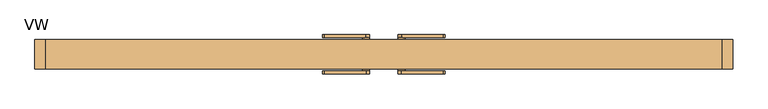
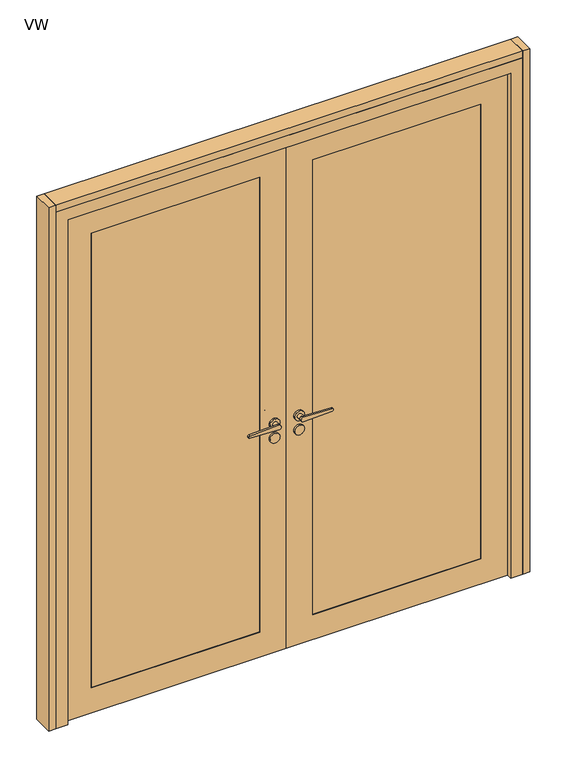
"""IFC4 building model written with IfcOpenShell, lengths in millimetres: door geometry, Mobiliário_Mobiliário de Escritório_Porta Dupla de Giro Vidro Duplo com Persiana - VW_Marelli : VW."""

from ifc_helpers import new_model, si_unit, point, frame, frame_2d, origin, origin_with_axes, place, context, project, spatial, polyline, circle_curve, trimmed, segment, composite_curve, outline, extrude, faceted_brep, source, transform, mapped, element, save


def vw_93026b2b(model_context):
    return source(origin(), model_context, "Body", "SolidModel", [
        extrude(outline(polyline([(-1000.0, -42.5), (-1000.0, 42.5), (-970.0, 42.5), (-970.0, -42.5), (-1000.0, -42.5)])), origin_with_axes(), (0.0, 0.0, 1.0), 2300.0),
        extrude(outline(polyline([(1000.0, -42.5), (970.0, -42.5), (970.0, 42.5), (1000.0, 42.5), (1000.0, -42.5)])), origin_with_axes(), (0.0, 0.0, 1.0), 2300.0),
        faceted_brep([(-970.0, 42.5, 2270.0), (970.0, 42.5, 2270.0), (970.0, 42.5, 0.0), (890.0, 42.5, 0.0), (890.0, 42.5, 2190.0), (-890.0, 42.5, 2190.0), (-890.0, 42.5, 0.0), (-970.0, 42.5, 0.0), (-970.0, -42.5, 0.0), (-970.0, -42.5, 2270.0), (-890.0, 21.5, 0.0), (-920.0, 21.5, 0.0), (-920.0, -42.5, 0.0), (970.0, -42.5, 0.0), (920.0, -42.5, 0.0), (920.0, 21.5, 0.0), (890.0, 21.5, 0.0), (-890.0, 21.5, 2190.0), (890.0, 21.5, 2190.0), (970.0, -42.5, 2270.0), (920.0, 21.5, 2220.0), (-920.0, 21.5, 2220.0), (-920.0, -42.5, 2220.0), (920.0, -42.5, 2220.0)], [[[0, 1, 2, 3, 4, 5, 6, 7]], [[0, 7, 8, 9]], [[7, 6, 10, 11, 12, 8]], [[2, 13, 14, 15, 16, 3]], [[6, 5, 17, 10]], [[16, 18, 4, 3]], [[19, 13, 2, 1]], [[18, 16, 15, 20, 21, 11, 10, 17]], [[21, 22, 12, 11]], [[14, 23, 20, 15]], [[23, 14, 13, 19, 9, 8, 12, 22]], [[4, 18, 17, 5]], [[22, 21, 20, 23]], [[19, 1, 0, 9]]]),
        extrude(outline(polyline([(2219.5, 0.25), (0.5, 0.25), (0.5, 919.5), (2219.5, 919.5), (2219.5, 0.25)]), holes=[polyline([(110.5, 809.5), (110.5, 110.25), (2109.5, 110.25), (2109.5, 809.5), (110.5, 809.5)])]), frame((0.0, -21.0, 0.0), z_axis=(0.0, 1.0, 0.0), x_axis=(0.0, 0.0, 1.0)), (0.0, 0.0, 1.0), 42.0),
        extrude(outline(polyline([(809.5, -18.5), (110.25, -18.5), (110.25, -12.5), (809.5, -12.5), (809.5, -18.5)])), frame((0.0, 0.0, 110.5), z_axis=(0.0, 0.0, 1.0), x_axis=(1.0, 0.0, 0.0)), (0.0, 0.0, 1.0), 1999.0),
        extrude(outline(polyline([(809.5, 18.5), (809.5, 12.5), (110.25, 12.5), (110.25, 18.5), (809.5, 18.5)])), frame((0.0, 0.0, 110.5), z_axis=(0.0, 0.0, 1.0), x_axis=(1.0, 0.0, 0.0)), (0.0, 0.0, 1.0), 1999.0),
        extrude(outline(polyline([(2219.5, -0.25), (2219.5, -919.5), (0.5, -919.5), (0.5, -0.25), (2219.5, -0.25)]), holes=[polyline([(110.5, -809.5), (2109.5, -809.5), (2109.5, -110.25), (110.5, -110.25), (110.5, -809.5)])]), frame((0.0, -21.0, 0.0), z_axis=(0.0, 1.0, 0.0), x_axis=(0.0, 0.0, 1.0)), (0.0, 0.0, 1.0), 42.0),
        extrude(outline(polyline([(-809.5, -18.5), (-809.5, -12.5), (-110.25, -12.5), (-110.25, -18.5), (-809.5, -18.5)])), frame((0.0, 0.0, 110.5), z_axis=(0.0, 0.0, 1.0), x_axis=(1.0, 0.0, 0.0)), (0.0, 0.0, 1.0), 1999.0),
        extrude(outline(polyline([(-809.5, 18.5), (-110.25, 18.5), (-110.25, 12.5), (-809.5, 12.5), (-809.5, 18.5)])), frame((0.0, 0.0, 110.5), z_axis=(0.0, 0.0, 1.0), x_axis=(1.0, 0.0, 0.0)), (0.0, 0.0, 1.0), 1999.0),
        extrude(outline(polyline([(-809.5, 9.1216022), (-110.7, 9.1216022), (-110.7, -6.8783978), (-809.5, -6.8783978), (-809.5, 9.1216022)])), frame((0.0, 0.0, 1190.7), z_axis=(0.0, 0.0, 1.0), x_axis=(1.0, 0.0, 0.0)), (0.0, 0.0, 1.0), 0.8),
        extrude(outline(polyline([(-809.5, 9.1216022), (-110.7, 9.1216022), (-110.7, -6.8783978), (-809.5, -6.8783978), (-809.5, 9.1216022)])), frame((0.0, 0.0, 1160.7), z_axis=(0.0, 0.0, 1.0), x_axis=(1.0, 0.0, 0.0)), (0.0, 0.0, 1.0), 0.8),
        extrude(outline(polyline([(-809.5, 9.1216022), (-110.7, 9.1216022), (-110.7, -6.8783978), (-809.5, -6.8783978), (-809.5, 9.1216022)])), frame((0.0, 0.0, 1130.7), z_axis=(0.0, 0.0, 1.0), x_axis=(1.0, 0.0, 0.0)), (0.0, 0.0, 1.0), 0.8),
        extrude(outline(polyline([(-809.5, 9.1216022), (-110.7, 9.1216022), (-110.7, -6.8783978), (-809.5, -6.8783978), (-809.5, 9.1216022)])), frame((0.0, 0.0, 1100.7), z_axis=(0.0, 0.0, 1.0), x_axis=(1.0, 0.0, 0.0)), (0.0, 0.0, 1.0), 0.8),
        extrude(outline(polyline([(-809.5, 9.1216022), (-110.7, 9.1216022), (-110.7, -6.8783978), (-809.5, -6.8783978), (-809.5, 9.1216022)])), frame((0.0, 0.0, 1070.7), z_axis=(0.0, 0.0, 1.0), x_axis=(1.0, 0.0, 0.0)), (0.0, 0.0, 1.0), 0.8),
        extrude(outline(polyline([(-809.5, 9.1216022), (-110.7, 9.1216022), (-110.7, -6.8783978), (-809.5, -6.8783978), (-809.5, 9.1216022)])), frame((0.0, 0.0, 1040.7), z_axis=(0.0, 0.0, 1.0), x_axis=(1.0, 0.0, 0.0)), (0.0, 0.0, 1.0), 0.8),
        extrude(outline(polyline([(-809.5, 9.1216022), (-110.7, 9.1216022), (-110.7, -6.8783978), (-809.5, -6.8783978), (-809.5, 9.1216022)])), frame((0.0, 0.0, 1010.7), z_axis=(0.0, 0.0, 1.0), x_axis=(1.0, 0.0, 0.0)), (0.0, 0.0, 1.0), 0.8),
        extrude(outline(polyline([(-809.5, 9.1216022), (-110.7, 9.1216022), (-110.7, -6.8783978), (-809.5, -6.8783978), (-809.5, 9.1216022)])), frame((0.0, 0.0, 980.7), z_axis=(0.0, 0.0, 1.0), x_axis=(1.0, 0.0, 0.0)), (0.0, 0.0, 1.0), 0.8),
        extrude(outline(polyline([(-809.5, 9.1216022), (-110.7, 9.1216022), (-110.7, -6.8783978), (-809.5, -6.8783978), (-809.5, 9.1216022)])), frame((0.0, 0.0, 950.7), z_axis=(0.0, 0.0, 1.0), x_axis=(1.0, 0.0, 0.0)), (0.0, 0.0, 1.0), 0.8),
        extrude(outline(polyline([(-809.5, 9.1216022), (-110.7, 9.1216022), (-110.7, -6.8783978), (-809.5, -6.8783978), (-809.5, 9.1216022)])), frame((0.0, 0.0, 920.7), z_axis=(0.0, 0.0, 1.0), x_axis=(1.0, 0.0, 0.0)), (0.0, 0.0, 1.0), 0.8),
        extrude(outline(polyline([(-809.5, 9.1216022), (-110.7, 9.1216022), (-110.7, -6.8783978), (-809.5, -6.8783978), (-809.5, 9.1216022)])), frame((0.0, 0.0, 620.7), z_axis=(0.0, 0.0, 1.0), x_axis=(1.0, 0.0, 0.0)), (0.0, 0.0, 1.0), 0.8),
        extrude(outline(polyline([(-809.5, 9.1216022), (-110.7, 9.1216022), (-110.7, -6.8783978), (-809.5, -6.8783978), (-809.5, 9.1216022)])), frame((0.0, 0.0, 650.7), z_axis=(0.0, 0.0, 1.0), x_axis=(1.0, 0.0, 0.0)), (0.0, 0.0, 1.0), 0.8),
        extrude(outline(polyline([(-809.5, 9.1216022), (-110.7, 9.1216022), (-110.7, -6.8783978), (-809.5, -6.8783978), (-809.5, 9.1216022)])), frame((0.0, 0.0, 680.7), z_axis=(0.0, 0.0, 1.0), x_axis=(1.0, 0.0, 0.0)), (0.0, 0.0, 1.0), 0.8),
        extrude(outline(polyline([(-809.5, 9.1216022), (-110.7, 9.1216022), (-110.7, -6.8783978), (-809.5, -6.8783978), (-809.5, 9.1216022)])), frame((0.0, 0.0, 710.7), z_axis=(0.0, 0.0, 1.0), x_axis=(1.0, 0.0, 0.0)), (0.0, 0.0, 1.0), 0.8),
        extrude(outline(polyline([(-809.5, 9.1216022), (-110.7, 9.1216022), (-110.7, -6.8783978), (-809.5, -6.8783978), (-809.5, 9.1216022)])), frame((0.0, 0.0, 740.7), z_axis=(0.0, 0.0, 1.0), x_axis=(1.0, 0.0, 0.0)), (0.0, 0.0, 1.0), 0.8),
        extrude(outline(polyline([(-809.5, 9.1216022), (-110.7, 9.1216022), (-110.7, -6.8783978), (-809.5, -6.8783978), (-809.5, 9.1216022)])), frame((0.0, 0.0, 770.7), z_axis=(0.0, 0.0, 1.0), x_axis=(1.0, 0.0, 0.0)), (0.0, 0.0, 1.0), 0.8),
        extrude(outline(polyline([(-809.5, 9.1216022), (-110.7, 9.1216022), (-110.7, -6.8783978), (-809.5, -6.8783978), (-809.5, 9.1216022)])), frame((0.0, 0.0, 800.7), z_axis=(0.0, 0.0, 1.0), x_axis=(1.0, 0.0, 0.0)), (0.0, 0.0, 1.0), 0.8),
        extrude(outline(polyline([(-809.5, 9.1216022), (-110.7, 9.1216022), (-110.7, -6.8783978), (-809.5, -6.8783978), (-809.5, 9.1216022)])), frame((0.0, 0.0, 830.7), z_axis=(0.0, 0.0, 1.0), x_axis=(1.0, 0.0, 0.0)), (0.0, 0.0, 1.0), 0.8),
        extrude(outline(polyline([(-809.5, 9.1216022), (-110.7, 9.1216022), (-110.7, -6.8783978), (-809.5, -6.8783978), (-809.5, 9.1216022)])), frame((0.0, 0.0, 860.7), z_axis=(0.0, 0.0, 1.0), x_axis=(1.0, 0.0, 0.0)), (0.0, 0.0, 1.0), 0.8),
        extrude(outline(polyline([(-809.5, 9.1216022), (-110.7, 9.1216022), (-110.7, -6.8783978), (-809.5, -6.8783978), (-809.5, 9.1216022)])), frame((0.0, 0.0, 890.7), z_axis=(0.0, 0.0, 1.0), x_axis=(1.0, 0.0, 0.0)), (0.0, 0.0, 1.0), 0.8),
        extrude(outline(polyline([(-809.5, 9.1216022), (-110.7, 9.1216022), (-110.7, -6.8783978), (-809.5, -6.8783978), (-809.5, 9.1216022)])), frame((0.0, 0.0, 320.7), z_axis=(0.0, 0.0, 1.0), x_axis=(1.0, 0.0, 0.0)), (0.0, 0.0, 1.0), 0.8),
        extrude(outline(polyline([(-809.5, 9.1216022), (-110.7, 9.1216022), (-110.7, -6.8783978), (-809.5, -6.8783978), (-809.5, 9.1216022)])), frame((0.0, 0.0, 590.7), z_axis=(0.0, 0.0, 1.0), x_axis=(1.0, 0.0, 0.0)), (0.0, 0.0, 1.0), 0.8),
        extrude(outline(polyline([(-809.5, 9.1216022), (-110.7, 9.1216022), (-110.7, -6.8783978), (-809.5, -6.8783978), (-809.5, 9.1216022)])), frame((0.0, 0.0, 560.7), z_axis=(0.0, 0.0, 1.0), x_axis=(1.0, 0.0, 0.0)), (0.0, 0.0, 1.0), 0.8),
        extrude(outline(polyline([(-809.5, 9.1216022), (-110.7, 9.1216022), (-110.7, -6.8783978), (-809.5, -6.8783978), (-809.5, 9.1216022)])), frame((0.0, 0.0, 530.7), z_axis=(0.0, 0.0, 1.0), x_axis=(1.0, 0.0, 0.0)), (0.0, 0.0, 1.0), 0.8),
        extrude(outline(polyline([(-809.5, 9.1216022), (-110.7, 9.1216022), (-110.7, -6.8783978), (-809.5, -6.8783978), (-809.5, 9.1216022)])), frame((0.0, 0.0, 500.7), z_axis=(0.0, 0.0, 1.0), x_axis=(1.0, 0.0, 0.0)), (0.0, 0.0, 1.0), 0.8),
        extrude(outline(polyline([(-809.5, 9.1216022), (-110.7, 9.1216022), (-110.7, -6.8783978), (-809.5, -6.8783978), (-809.5, 9.1216022)])), frame((0.0, 0.0, 470.7), z_axis=(0.0, 0.0, 1.0), x_axis=(1.0, 0.0, 0.0)), (0.0, 0.0, 1.0), 0.8),
        extrude(outline(polyline([(-809.5, 9.1216022), (-110.7, 9.1216022), (-110.7, -6.8783978), (-809.5, -6.8783978), (-809.5, 9.1216022)])), frame((0.0, 0.0, 440.7), z_axis=(0.0, 0.0, 1.0), x_axis=(1.0, 0.0, 0.0)), (0.0, 0.0, 1.0), 0.8),
        extrude(outline(polyline([(-809.5, 9.1216022), (-110.7, 9.1216022), (-110.7, -6.8783978), (-809.5, -6.8783978), (-809.5, 9.1216022)])), frame((0.0, 0.0, 410.7), z_axis=(0.0, 0.0, 1.0), x_axis=(1.0, 0.0, 0.0)), (0.0, 0.0, 1.0), 0.8),
        extrude(outline(polyline([(-809.5, 9.1216022), (-110.7, 9.1216022), (-110.7, -6.8783978), (-809.5, -6.8783978), (-809.5, 9.1216022)])), frame((0.0, 0.0, 380.7), z_axis=(0.0, 0.0, 1.0), x_axis=(1.0, 0.0, 0.0)), (0.0, 0.0, 1.0), 0.8),
        extrude(outline(polyline([(-809.5, 9.1216022), (-110.7, 9.1216022), (-110.7, -6.8783978), (-809.5, -6.8783978), (-809.5, 9.1216022)])), frame((0.0, 0.0, 350.7), z_axis=(0.0, 0.0, 1.0), x_axis=(1.0, 0.0, 0.0)), (0.0, 0.0, 1.0), 0.8),
        extrude(outline(polyline([(-809.5, 9.1216022), (-110.7, 9.1216022), (-110.7, -6.8783978), (-809.5, -6.8783978), (-809.5, 9.1216022)])), frame((0.0, 0.0, 140.7), z_axis=(0.0, 0.0, 1.0), x_axis=(1.0, 0.0, 0.0)), (0.0, 0.0, 1.0), 0.8),
        extrude(outline(polyline([(-809.5, 9.1216022), (-110.7, 9.1216022), (-110.7, -6.8783978), (-809.5, -6.8783978), (-809.5, 9.1216022)])), frame((0.0, 0.0, 170.7), z_axis=(0.0, 0.0, 1.0), x_axis=(1.0, 0.0, 0.0)), (0.0, 0.0, 1.0), 0.8),
        extrude(outline(polyline([(-809.5, 9.1216022), (-110.7, 9.1216022), (-110.7, -6.8783978), (-809.5, -6.8783978), (-809.5, 9.1216022)])), frame((0.0, 0.0, 200.7), z_axis=(0.0, 0.0, 1.0), x_axis=(1.0, 0.0, 0.0)), (0.0, 0.0, 1.0), 0.8),
        extrude(outline(polyline([(-809.5, 9.1216022), (-110.7, 9.1216022), (-110.7, -6.8783978), (-809.5, -6.8783978), (-809.5, 9.1216022)])), frame((0.0, 0.0, 230.7), z_axis=(0.0, 0.0, 1.0), x_axis=(1.0, 0.0, 0.0)), (0.0, 0.0, 1.0), 0.8),
        extrude(outline(polyline([(-809.5, 9.1216022), (-110.7, 9.1216022), (-110.7, -6.8783978), (-809.5, -6.8783978), (-809.5, 9.1216022)])), frame((0.0, 0.0, 260.7), z_axis=(0.0, 0.0, 1.0), x_axis=(1.0, 0.0, 0.0)), (0.0, 0.0, 1.0), 0.8),
        extrude(outline(polyline([(-809.5, 9.1216022), (-110.7, 9.1216022), (-110.7, -6.8783978), (-809.5, -6.8783978), (-809.5, 9.1216022)])), frame((0.0, 0.0, 290.7), z_axis=(0.0, 0.0, 1.0), x_axis=(1.0, 0.0, 0.0)), (0.0, 0.0, 1.0), 0.8),
        extrude(outline(polyline([(-809.5, 9.1216022), (-110.7, 9.1216022), (-110.7, -6.8783978), (-809.5, -6.8783978), (-809.5, 9.1216022)])), frame((0.0, 0.0, 2060.7), z_axis=(0.0, 0.0, 1.0), x_axis=(1.0, 0.0, 0.0)), (0.0, 0.0, 1.0), 0.8),
        extrude(outline(polyline([(-809.5, 9.1216022), (-110.7, 9.1216022), (-110.7, -6.8783978), (-809.5, -6.8783978), (-809.5, 9.1216022)])), frame((0.0, 0.0, 2030.7), z_axis=(0.0, 0.0, 1.0), x_axis=(1.0, 0.0, 0.0)), (0.0, 0.0, 1.0), 0.8),
        extrude(outline(polyline([(-809.5, 9.1216022), (-110.7, 9.1216022), (-110.7, -6.8783978), (-809.5, -6.8783978), (-809.5, 9.1216022)])), frame((0.0, 0.0, 2000.7), z_axis=(0.0, 0.0, 1.0), x_axis=(1.0, 0.0, 0.0)), (0.0, 0.0, 1.0), 0.8),
        extrude(outline(polyline([(-809.5, 9.1216022), (-110.7, 9.1216022), (-110.7, -6.8783978), (-809.5, -6.8783978), (-809.5, 9.1216022)])), frame((0.0, 0.0, 1970.7), z_axis=(0.0, 0.0, 1.0), x_axis=(1.0, 0.0, 0.0)), (0.0, 0.0, 1.0), 0.8),
        extrude(outline(polyline([(-809.5, 9.1216022), (-110.7, 9.1216022), (-110.7, -6.8783978), (-809.5, -6.8783978), (-809.5, 9.1216022)])), frame((0.0, 0.0, 1940.7), z_axis=(0.0, 0.0, 1.0), x_axis=(1.0, 0.0, 0.0)), (0.0, 0.0, 1.0), 0.8),
        extrude(outline(polyline([(-809.5, 9.1216022), (-110.7, 9.1216022), (-110.7, -6.8783978), (-809.5, -6.8783978), (-809.5, 9.1216022)])), frame((0.0, 0.0, 1910.7), z_axis=(0.0, 0.0, 1.0), x_axis=(1.0, 0.0, 0.0)), (0.0, 0.0, 1.0), 0.8),
        extrude(outline(polyline([(-809.5, 9.1216022), (-110.7, 9.1216022), (-110.7, -6.8783978), (-809.5, -6.8783978), (-809.5, 9.1216022)])), frame((0.0, 0.0, 1880.7), z_axis=(0.0, 0.0, 1.0), x_axis=(1.0, 0.0, 0.0)), (0.0, 0.0, 1.0), 0.8),
        extrude(outline(polyline([(-809.5, 9.1216022), (-110.7, 9.1216022), (-110.7, -6.8783978), (-809.5, -6.8783978), (-809.5, 9.1216022)])), frame((0.0, 0.0, 1850.7), z_axis=(0.0, 0.0, 1.0), x_axis=(1.0, 0.0, 0.0)), (0.0, 0.0, 1.0), 0.8),
        extrude(outline(polyline([(-809.5, 9.1216022), (-110.7, 9.1216022), (-110.7, -6.8783978), (-809.5, -6.8783978), (-809.5, 9.1216022)])), frame((0.0, 0.0, 1820.7), z_axis=(0.0, 0.0, 1.0), x_axis=(1.0, 0.0, 0.0)), (0.0, 0.0, 1.0), 0.8),
        extrude(outline(polyline([(-809.5, 9.1216022), (-110.7, 9.1216022), (-110.7, -6.8783978), (-809.5, -6.8783978), (-809.5, 9.1216022)])), frame((0.0, 0.0, 1790.7), z_axis=(0.0, 0.0, 1.0), x_axis=(1.0, 0.0, 0.0)), (0.0, 0.0, 1.0), 0.8),
        extrude(outline(polyline([(-809.5, 9.1216022), (-110.7, 9.1216022), (-110.7, -6.8783978), (-809.5, -6.8783978), (-809.5, 9.1216022)])), frame((0.0, 0.0, 1760.7), z_axis=(0.0, 0.0, 1.0), x_axis=(1.0, 0.0, 0.0)), (0.0, 0.0, 1.0), 0.8),
        extrude(outline(polyline([(-809.5, 9.1216022), (-110.7, 9.1216022), (-110.7, -6.8783978), (-809.5, -6.8783978), (-809.5, 9.1216022)])), frame((0.0, 0.0, 1730.7), z_axis=(0.0, 0.0, 1.0), x_axis=(1.0, 0.0, 0.0)), (0.0, 0.0, 1.0), 0.8),
        extrude(outline(polyline([(-809.5, 9.1216022), (-110.7, 9.1216022), (-110.7, -6.8783978), (-809.5, -6.8783978), (-809.5, 9.1216022)])), frame((0.0, 0.0, 1700.7), z_axis=(0.0, 0.0, 1.0), x_axis=(1.0, 0.0, 0.0)), (0.0, 0.0, 1.0), 0.8),
        extrude(outline(polyline([(-809.5, 9.1216022), (-110.7, 9.1216022), (-110.7, -6.8783978), (-809.5, -6.8783978), (-809.5, 9.1216022)])), frame((0.0, 0.0, 1670.7), z_axis=(0.0, 0.0, 1.0), x_axis=(1.0, 0.0, 0.0)), (0.0, 0.0, 1.0), 0.8),
        extrude(outline(polyline([(-809.5, 9.1216022), (-110.7, 9.1216022), (-110.7, -6.8783978), (-809.5, -6.8783978), (-809.5, 9.1216022)])), frame((0.0, 0.0, 1640.7), z_axis=(0.0, 0.0, 1.0), x_axis=(1.0, 0.0, 0.0)), (0.0, 0.0, 1.0), 0.8),
        extrude(outline(polyline([(-809.5, 9.1216022), (-110.7, 9.1216022), (-110.7, -6.8783978), (-809.5, -6.8783978), (-809.5, 9.1216022)])), frame((0.0, 0.0, 1610.7), z_axis=(0.0, 0.0, 1.0), x_axis=(1.0, 0.0, 0.0)), (0.0, 0.0, 1.0), 0.8),
        extrude(outline(polyline([(-809.5, 9.1216022), (-110.7, 9.1216022), (-110.7, -6.8783978), (-809.5, -6.8783978), (-809.5, 9.1216022)])), frame((0.0, 0.0, 1580.7), z_axis=(0.0, 0.0, 1.0), x_axis=(1.0, 0.0, 0.0)), (0.0, 0.0, 1.0), 0.8),
        extrude(outline(polyline([(-809.5, 9.1216022), (-110.7, 9.1216022), (-110.7, -6.8783978), (-809.5, -6.8783978), (-809.5, 9.1216022)])), frame((0.0, 0.0, 1550.7), z_axis=(0.0, 0.0, 1.0), x_axis=(1.0, 0.0, 0.0)), (0.0, 0.0, 1.0), 0.8),
        extrude(outline(polyline([(-809.5, 9.1216022), (-110.7, 9.1216022), (-110.7, -6.8783978), (-809.5, -6.8783978), (-809.5, 9.1216022)])), frame((0.0, 0.0, 1520.7), z_axis=(0.0, 0.0, 1.0), x_axis=(1.0, 0.0, 0.0)), (0.0, 0.0, 1.0), 0.8),
        extrude(outline(polyline([(-809.5, 9.1216022), (-110.7, 9.1216022), (-110.7, -6.8783978), (-809.5, -6.8783978), (-809.5, 9.1216022)])), frame((0.0, 0.0, 1490.7), z_axis=(0.0, 0.0, 1.0), x_axis=(1.0, 0.0, 0.0)), (0.0, 0.0, 1.0), 0.8),
        extrude(outline(polyline([(-809.5, 9.1216022), (-110.7, 9.1216022), (-110.7, -6.8783978), (-809.5, -6.8783978), (-809.5, 9.1216022)])), frame((0.0, 0.0, 1460.7), z_axis=(0.0, 0.0, 1.0), x_axis=(1.0, 0.0, 0.0)), (0.0, 0.0, 1.0), 0.8),
        extrude(outline(polyline([(-809.5, 9.1216022), (-110.7, 9.1216022), (-110.7, -6.8783978), (-809.5, -6.8783978), (-809.5, 9.1216022)])), frame((0.0, 0.0, 1430.7), z_axis=(0.0, 0.0, 1.0), x_axis=(1.0, 0.0, 0.0)), (0.0, 0.0, 1.0), 0.8),
        extrude(outline(polyline([(-809.5, 9.1216022), (-110.7, 9.1216022), (-110.7, -6.8783978), (-809.5, -6.8783978), (-809.5, 9.1216022)])), frame((0.0, 0.0, 1400.7), z_axis=(0.0, 0.0, 1.0), x_axis=(1.0, 0.0, 0.0)), (0.0, 0.0, 1.0), 0.8),
        extrude(outline(polyline([(-809.5, 9.1216022), (-110.7, 9.1216022), (-110.7, -6.8783978), (-809.5, -6.8783978), (-809.5, 9.1216022)])), frame((0.0, 0.0, 1370.7), z_axis=(0.0, 0.0, 1.0), x_axis=(1.0, 0.0, 0.0)), (0.0, 0.0, 1.0), 0.8),
        extrude(outline(polyline([(-809.5, 9.1216022), (-110.7, 9.1216022), (-110.7, -6.8783978), (-809.5, -6.8783978), (-809.5, 9.1216022)])), frame((0.0, 0.0, 1340.7), z_axis=(0.0, 0.0, 1.0), x_axis=(1.0, 0.0, 0.0)), (0.0, 0.0, 1.0), 0.8),
        extrude(outline(polyline([(-809.5, 9.1216022), (-110.7, 9.1216022), (-110.7, -6.8783978), (-809.5, -6.8783978), (-809.5, 9.1216022)])), frame((0.0, 0.0, 1310.7), z_axis=(0.0, 0.0, 1.0), x_axis=(1.0, 0.0, 0.0)), (0.0, 0.0, 1.0), 0.8),
        extrude(outline(polyline([(-809.5, 9.1216022), (-110.7, 9.1216022), (-110.7, -6.8783978), (-809.5, -6.8783978), (-809.5, 9.1216022)])), frame((0.0, 0.0, 1280.7), z_axis=(0.0, 0.0, 1.0), x_axis=(1.0, 0.0, 0.0)), (0.0, 0.0, 1.0), 0.8),
        extrude(outline(polyline([(-809.5, 9.1216022), (-110.7, 9.1216022), (-110.7, -6.8783978), (-809.5, -6.8783978), (-809.5, 9.1216022)])), frame((0.0, 0.0, 1250.7), z_axis=(0.0, 0.0, 1.0), x_axis=(1.0, 0.0, 0.0)), (0.0, 0.0, 1.0), 0.8),
        extrude(outline(polyline([(-809.5, 9.1216022), (-110.7, 9.1216022), (-110.7, -6.8783978), (-809.5, -6.8783978), (-809.5, 9.1216022)])), frame((0.0, 0.0, 1220.7), z_axis=(0.0, 0.0, 1.0), x_axis=(1.0, 0.0, 0.0)), (0.0, 0.0, 1.0), 0.8),
        extrude(outline(polyline([(809.5, -6.8783978), (110.7, -6.8783978), (110.7, 9.1216022), (809.5, 9.1216022), (809.5, -6.8783978)])), frame((0.0, 0.0, 1190.7), z_axis=(0.0, 0.0, 1.0), x_axis=(1.0, 0.0, 0.0)), (0.0, 0.0, 1.0), 0.8),
        extrude(outline(polyline([(809.5, -6.8783978), (110.7, -6.8783978), (110.7, 9.1216022), (809.5, 9.1216022), (809.5, -6.8783978)])), frame((0.0, 0.0, 1160.7), z_axis=(0.0, 0.0, 1.0), x_axis=(1.0, 0.0, 0.0)), (0.0, 0.0, 1.0), 0.8),
        extrude(outline(polyline([(809.5, -6.8783978), (110.7, -6.8783978), (110.7, 9.1216022), (809.5, 9.1216022), (809.5, -6.8783978)])), frame((0.0, 0.0, 1130.7), z_axis=(0.0, 0.0, 1.0), x_axis=(1.0, 0.0, 0.0)), (0.0, 0.0, 1.0), 0.8),
        extrude(outline(polyline([(809.5, -6.8783978), (110.7, -6.8783978), (110.7, 9.1216022), (809.5, 9.1216022), (809.5, -6.8783978)])), frame((0.0, 0.0, 1100.7), z_axis=(0.0, 0.0, 1.0), x_axis=(1.0, 0.0, 0.0)), (0.0, 0.0, 1.0), 0.8),
        extrude(outline(polyline([(809.5, -6.8783978), (110.7, -6.8783978), (110.7, 9.1216022), (809.5, 9.1216022), (809.5, -6.8783978)])), frame((0.0, 0.0, 1070.7), z_axis=(0.0, 0.0, 1.0), x_axis=(1.0, 0.0, 0.0)), (0.0, 0.0, 1.0), 0.8),
        extrude(outline(polyline([(809.5, -6.8783978), (110.7, -6.8783978), (110.7, 9.1216022), (809.5, 9.1216022), (809.5, -6.8783978)])), frame((0.0, 0.0, 1040.7), z_axis=(0.0, 0.0, 1.0), x_axis=(1.0, 0.0, 0.0)), (0.0, 0.0, 1.0), 0.8),
        extrude(outline(polyline([(809.5, -6.8783978), (110.7, -6.8783978), (110.7, 9.1216022), (809.5, 9.1216022), (809.5, -6.8783978)])), frame((0.0, 0.0, 1010.7), z_axis=(0.0, 0.0, 1.0), x_axis=(1.0, 0.0, 0.0)), (0.0, 0.0, 1.0), 0.8),
        extrude(outline(polyline([(809.5, -6.8783978), (110.7, -6.8783978), (110.7, 9.1216022), (809.5, 9.1216022), (809.5, -6.8783978)])), frame((0.0, 0.0, 980.7), z_axis=(0.0, 0.0, 1.0), x_axis=(1.0, 0.0, 0.0)), (0.0, 0.0, 1.0), 0.8),
        extrude(outline(polyline([(809.5, -6.8783978), (110.7, -6.8783978), (110.7, 9.1216022), (809.5, 9.1216022), (809.5, -6.8783978)])), frame((0.0, 0.0, 950.7), z_axis=(0.0, 0.0, 1.0), x_axis=(1.0, 0.0, 0.0)), (0.0, 0.0, 1.0), 0.8),
        extrude(outline(polyline([(809.5, -6.8783978), (110.7, -6.8783978), (110.7, 9.1216022), (809.5, 9.1216022), (809.5, -6.8783978)])), frame((0.0, 0.0, 920.7), z_axis=(0.0, 0.0, 1.0), x_axis=(1.0, 0.0, 0.0)), (0.0, 0.0, 1.0), 0.8),
        extrude(outline(polyline([(809.5, -6.8783978), (110.7, -6.8783978), (110.7, 9.1216022), (809.5, 9.1216022), (809.5, -6.8783978)])), frame((0.0, 0.0, 140.7), z_axis=(0.0, 0.0, 1.0), x_axis=(1.0, 0.0, 0.0)), (0.0, 0.0, 1.0), 0.8),
        extrude(outline(polyline([(809.5, -6.8783978), (110.7, -6.8783978), (110.7, 9.1216022), (809.5, 9.1216022), (809.5, -6.8783978)])), frame((0.0, 0.0, 170.7), z_axis=(0.0, 0.0, 1.0), x_axis=(1.0, 0.0, 0.0)), (0.0, 0.0, 1.0), 0.8),
        extrude(outline(polyline([(809.5, -6.8783978), (110.7, -6.8783978), (110.7, 9.1216022), (809.5, 9.1216022), (809.5, -6.8783978)])), frame((0.0, 0.0, 200.7), z_axis=(0.0, 0.0, 1.0), x_axis=(1.0, 0.0, 0.0)), (0.0, 0.0, 1.0), 0.8),
        extrude(outline(polyline([(809.5, -6.8783978), (110.7, -6.8783978), (110.7, 9.1216022), (809.5, 9.1216022), (809.5, -6.8783978)])), frame((0.0, 0.0, 230.7), z_axis=(0.0, 0.0, 1.0), x_axis=(1.0, 0.0, 0.0)), (0.0, 0.0, 1.0), 0.8),
        extrude(outline(polyline([(809.5, -6.8783978), (110.7, -6.8783978), (110.7, 9.1216022), (809.5, 9.1216022), (809.5, -6.8783978)])), frame((0.0, 0.0, 260.7), z_axis=(0.0, 0.0, 1.0), x_axis=(1.0, 0.0, 0.0)), (0.0, 0.0, 1.0), 0.8),
        extrude(outline(polyline([(809.5, -6.8783978), (110.7, -6.8783978), (110.7, 9.1216022), (809.5, 9.1216022), (809.5, -6.8783978)])), frame((0.0, 0.0, 290.7), z_axis=(0.0, 0.0, 1.0), x_axis=(1.0, 0.0, 0.0)), (0.0, 0.0, 1.0), 0.8),
        extrude(outline(polyline([(809.5, -6.8783978), (110.7, -6.8783978), (110.7, 9.1216022), (809.5, 9.1216022), (809.5, -6.8783978)])), frame((0.0, 0.0, 320.7), z_axis=(0.0, 0.0, 1.0), x_axis=(1.0, 0.0, 0.0)), (0.0, 0.0, 1.0), 0.8),
        extrude(outline(polyline([(809.5, -6.8783978), (110.7, -6.8783978), (110.7, 9.1216022), (809.5, 9.1216022), (809.5, -6.8783978)])), frame((0.0, 0.0, 350.7), z_axis=(0.0, 0.0, 1.0), x_axis=(1.0, 0.0, 0.0)), (0.0, 0.0, 1.0), 0.8),
        extrude(outline(polyline([(809.5, -6.8783978), (110.7, -6.8783978), (110.7, 9.1216022), (809.5, 9.1216022), (809.5, -6.8783978)])), frame((0.0, 0.0, 380.7), z_axis=(0.0, 0.0, 1.0), x_axis=(1.0, 0.0, 0.0)), (0.0, 0.0, 1.0), 0.8),
        extrude(outline(polyline([(809.5, -6.8783978), (110.7, -6.8783978), (110.7, 9.1216022), (809.5, 9.1216022), (809.5, -6.8783978)])), frame((0.0, 0.0, 410.7), z_axis=(0.0, 0.0, 1.0), x_axis=(1.0, 0.0, 0.0)), (0.0, 0.0, 1.0), 0.8),
        extrude(outline(polyline([(809.5, -6.8783978), (110.7, -6.8783978), (110.7, 9.1216022), (809.5, 9.1216022), (809.5, -6.8783978)])), frame((0.0, 0.0, 440.7), z_axis=(0.0, 0.0, 1.0), x_axis=(1.0, 0.0, 0.0)), (0.0, 0.0, 1.0), 0.8),
        extrude(outline(polyline([(809.5, -6.8783978), (110.7, -6.8783978), (110.7, 9.1216022), (809.5, 9.1216022), (809.5, -6.8783978)])), frame((0.0, 0.0, 470.7), z_axis=(0.0, 0.0, 1.0), x_axis=(1.0, 0.0, 0.0)), (0.0, 0.0, 1.0), 0.8),
        extrude(outline(polyline([(809.5, -6.8783978), (110.7, -6.8783978), (110.7, 9.1216022), (809.5, 9.1216022), (809.5, -6.8783978)])), frame((0.0, 0.0, 500.7), z_axis=(0.0, 0.0, 1.0), x_axis=(1.0, 0.0, 0.0)), (0.0, 0.0, 1.0), 0.8),
        extrude(outline(polyline([(809.5, -6.8783978), (110.7, -6.8783978), (110.7, 9.1216022), (809.5, 9.1216022), (809.5, -6.8783978)])), frame((0.0, 0.0, 530.7), z_axis=(0.0, 0.0, 1.0), x_axis=(1.0, 0.0, 0.0)), (0.0, 0.0, 1.0), 0.8),
        extrude(outline(polyline([(809.5, -6.8783978), (110.7, -6.8783978), (110.7, 9.1216022), (809.5, 9.1216022), (809.5, -6.8783978)])), frame((0.0, 0.0, 560.7), z_axis=(0.0, 0.0, 1.0), x_axis=(1.0, 0.0, 0.0)), (0.0, 0.0, 1.0), 0.8),
        extrude(outline(polyline([(809.5, -6.8783978), (110.7, -6.8783978), (110.7, 9.1216022), (809.5, 9.1216022), (809.5, -6.8783978)])), frame((0.0, 0.0, 590.7), z_axis=(0.0, 0.0, 1.0), x_axis=(1.0, 0.0, 0.0)), (0.0, 0.0, 1.0), 0.8),
        extrude(outline(polyline([(809.5, -6.8783978), (110.7, -6.8783978), (110.7, 9.1216022), (809.5, 9.1216022), (809.5, -6.8783978)])), frame((0.0, 0.0, 620.7), z_axis=(0.0, 0.0, 1.0), x_axis=(1.0, 0.0, 0.0)), (0.0, 0.0, 1.0), 0.8),
        extrude(outline(polyline([(809.5, -6.8783978), (110.7, -6.8783978), (110.7, 9.1216022), (809.5, 9.1216022), (809.5, -6.8783978)])), frame((0.0, 0.0, 650.7), z_axis=(0.0, 0.0, 1.0), x_axis=(1.0, 0.0, 0.0)), (0.0, 0.0, 1.0), 0.8),
        extrude(outline(polyline([(809.5, -6.8783978), (110.7, -6.8783978), (110.7, 9.1216022), (809.5, 9.1216022), (809.5, -6.8783978)])), frame((0.0, 0.0, 680.7), z_axis=(0.0, 0.0, 1.0), x_axis=(1.0, 0.0, 0.0)), (0.0, 0.0, 1.0), 0.8),
        extrude(outline(polyline([(809.5, -6.8783978), (110.7, -6.8783978), (110.7, 9.1216022), (809.5, 9.1216022), (809.5, -6.8783978)])), frame((0.0, 0.0, 710.7), z_axis=(0.0, 0.0, 1.0), x_axis=(1.0, 0.0, 0.0)), (0.0, 0.0, 1.0), 0.8),
        extrude(outline(polyline([(809.5, -6.8783978), (110.7, -6.8783978), (110.7, 9.1216022), (809.5, 9.1216022), (809.5, -6.8783978)])), frame((0.0, 0.0, 740.7), z_axis=(0.0, 0.0, 1.0), x_axis=(1.0, 0.0, 0.0)), (0.0, 0.0, 1.0), 0.8),
        extrude(outline(polyline([(809.5, -6.8783978), (110.7, -6.8783978), (110.7, 9.1216022), (809.5, 9.1216022), (809.5, -6.8783978)])), frame((0.0, 0.0, 770.7), z_axis=(0.0, 0.0, 1.0), x_axis=(1.0, 0.0, 0.0)), (0.0, 0.0, 1.0), 0.8),
        extrude(outline(polyline([(809.5, -6.8783978), (110.7, -6.8783978), (110.7, 9.1216022), (809.5, 9.1216022), (809.5, -6.8783978)])), frame((0.0, 0.0, 800.7), z_axis=(0.0, 0.0, 1.0), x_axis=(1.0, 0.0, 0.0)), (0.0, 0.0, 1.0), 0.8),
        extrude(outline(polyline([(809.5, -6.8783978), (110.7, -6.8783978), (110.7, 9.1216022), (809.5, 9.1216022), (809.5, -6.8783978)])), frame((0.0, 0.0, 830.7), z_axis=(0.0, 0.0, 1.0), x_axis=(1.0, 0.0, 0.0)), (0.0, 0.0, 1.0), 0.8),
        extrude(outline(polyline([(809.5, -6.8783978), (110.7, -6.8783978), (110.7, 9.1216022), (809.5, 9.1216022), (809.5, -6.8783978)])), frame((0.0, 0.0, 860.7), z_axis=(0.0, 0.0, 1.0), x_axis=(1.0, 0.0, 0.0)), (0.0, 0.0, 1.0), 0.8),
        extrude(outline(polyline([(809.5, -6.8783978), (110.7, -6.8783978), (110.7, 9.1216022), (809.5, 9.1216022), (809.5, -6.8783978)])), frame((0.0, 0.0, 890.7), z_axis=(0.0, 0.0, 1.0), x_axis=(1.0, 0.0, 0.0)), (0.0, 0.0, 1.0), 0.8),
        extrude(outline(polyline([(809.5, -6.8783978), (110.7, -6.8783978), (110.7, 9.1216022), (809.5, 9.1216022), (809.5, -6.8783978)])), frame((0.0, 0.0, 2060.7), z_axis=(0.0, 0.0, 1.0), x_axis=(1.0, 0.0, 0.0)), (0.0, 0.0, 1.0), 0.8),
        extrude(outline(polyline([(809.5, -6.8783978), (110.7, -6.8783978), (110.7, 9.1216022), (809.5, 9.1216022), (809.5, -6.8783978)])), frame((0.0, 0.0, 2030.7), z_axis=(0.0, 0.0, 1.0), x_axis=(1.0, 0.0, 0.0)), (0.0, 0.0, 1.0), 0.8),
        extrude(outline(polyline([(809.5, -6.8783978), (110.7, -6.8783978), (110.7, 9.1216022), (809.5, 9.1216022), (809.5, -6.8783978)])), frame((0.0, 0.0, 2000.7), z_axis=(0.0, 0.0, 1.0), x_axis=(1.0, 0.0, 0.0)), (0.0, 0.0, 1.0), 0.8),
        extrude(outline(polyline([(809.5, -6.8783978), (110.7, -6.8783978), (110.7, 9.1216022), (809.5, 9.1216022), (809.5, -6.8783978)])), frame((0.0, 0.0, 1970.7), z_axis=(0.0, 0.0, 1.0), x_axis=(1.0, 0.0, 0.0)), (0.0, 0.0, 1.0), 0.8),
        extrude(outline(polyline([(809.5, -6.8783978), (110.7, -6.8783978), (110.7, 9.1216022), (809.5, 9.1216022), (809.5, -6.8783978)])), frame((0.0, 0.0, 1940.7), z_axis=(0.0, 0.0, 1.0), x_axis=(1.0, 0.0, 0.0)), (0.0, 0.0, 1.0), 0.8),
        extrude(outline(polyline([(809.5, -6.8783978), (110.7, -6.8783978), (110.7, 9.1216022), (809.5, 9.1216022), (809.5, -6.8783978)])), frame((0.0, 0.0, 1910.7), z_axis=(0.0, 0.0, 1.0), x_axis=(1.0, 0.0, 0.0)), (0.0, 0.0, 1.0), 0.8),
        extrude(outline(polyline([(809.5, -6.8783978), (110.7, -6.8783978), (110.7, 9.1216022), (809.5, 9.1216022), (809.5, -6.8783978)])), frame((0.0, 0.0, 1880.7), z_axis=(0.0, 0.0, 1.0), x_axis=(1.0, 0.0, 0.0)), (0.0, 0.0, 1.0), 0.8),
        extrude(outline(polyline([(809.5, -6.8783978), (110.7, -6.8783978), (110.7, 9.1216022), (809.5, 9.1216022), (809.5, -6.8783978)])), frame((0.0, 0.0, 1850.7), z_axis=(0.0, 0.0, 1.0), x_axis=(1.0, 0.0, 0.0)), (0.0, 0.0, 1.0), 0.8),
        extrude(outline(polyline([(809.5, -6.8783978), (110.7, -6.8783978), (110.7, 9.1216022), (809.5, 9.1216022), (809.5, -6.8783978)])), frame((0.0, 0.0, 1820.7), z_axis=(0.0, 0.0, 1.0), x_axis=(1.0, 0.0, 0.0)), (0.0, 0.0, 1.0), 0.8),
        extrude(outline(polyline([(809.5, -6.8783978), (110.7, -6.8783978), (110.7, 9.1216022), (809.5, 9.1216022), (809.5, -6.8783978)])), frame((0.0, 0.0, 1790.7), z_axis=(0.0, 0.0, 1.0), x_axis=(1.0, 0.0, 0.0)), (0.0, 0.0, 1.0), 0.8),
        extrude(outline(polyline([(809.5, -6.8783978), (110.7, -6.8783978), (110.7, 9.1216022), (809.5, 9.1216022), (809.5, -6.8783978)])), frame((0.0, 0.0, 1760.7), z_axis=(0.0, 0.0, 1.0), x_axis=(1.0, 0.0, 0.0)), (0.0, 0.0, 1.0), 0.8),
        extrude(outline(polyline([(809.5, -6.8783978), (110.7, -6.8783978), (110.7, 9.1216022), (809.5, 9.1216022), (809.5, -6.8783978)])), frame((0.0, 0.0, 1730.7), z_axis=(0.0, 0.0, 1.0), x_axis=(1.0, 0.0, 0.0)), (0.0, 0.0, 1.0), 0.8),
        extrude(outline(polyline([(809.5, -6.8783978), (110.7, -6.8783978), (110.7, 9.1216022), (809.5, 9.1216022), (809.5, -6.8783978)])), frame((0.0, 0.0, 1700.7), z_axis=(0.0, 0.0, 1.0), x_axis=(1.0, 0.0, 0.0)), (0.0, 0.0, 1.0), 0.8),
        extrude(outline(polyline([(809.5, -6.8783978), (110.7, -6.8783978), (110.7, 9.1216022), (809.5, 9.1216022), (809.5, -6.8783978)])), frame((0.0, 0.0, 1670.7), z_axis=(0.0, 0.0, 1.0), x_axis=(1.0, 0.0, 0.0)), (0.0, 0.0, 1.0), 0.8),
        extrude(outline(polyline([(809.5, -6.8783978), (110.7, -6.8783978), (110.7, 9.1216022), (809.5, 9.1216022), (809.5, -6.8783978)])), frame((0.0, 0.0, 1640.7), z_axis=(0.0, 0.0, 1.0), x_axis=(1.0, 0.0, 0.0)), (0.0, 0.0, 1.0), 0.8),
        extrude(outline(polyline([(809.5, -6.8783978), (110.7, -6.8783978), (110.7, 9.1216022), (809.5, 9.1216022), (809.5, -6.8783978)])), frame((0.0, 0.0, 1610.7), z_axis=(0.0, 0.0, 1.0), x_axis=(1.0, 0.0, 0.0)), (0.0, 0.0, 1.0), 0.8),
        extrude(outline(polyline([(809.5, -6.8783978), (110.7, -6.8783978), (110.7, 9.1216022), (809.5, 9.1216022), (809.5, -6.8783978)])), frame((0.0, 0.0, 1580.7), z_axis=(0.0, 0.0, 1.0), x_axis=(1.0, 0.0, 0.0)), (0.0, 0.0, 1.0), 0.8),
        extrude(outline(polyline([(809.5, -6.8783978), (110.7, -6.8783978), (110.7, 9.1216022), (809.5, 9.1216022), (809.5, -6.8783978)])), frame((0.0, 0.0, 1550.7), z_axis=(0.0, 0.0, 1.0), x_axis=(1.0, 0.0, 0.0)), (0.0, 0.0, 1.0), 0.8),
        extrude(outline(polyline([(809.5, -6.8783978), (110.7, -6.8783978), (110.7, 9.1216022), (809.5, 9.1216022), (809.5, -6.8783978)])), frame((0.0, 0.0, 1520.7), z_axis=(0.0, 0.0, 1.0), x_axis=(1.0, 0.0, 0.0)), (0.0, 0.0, 1.0), 0.8),
        extrude(outline(polyline([(809.5, -6.8783978), (110.7, -6.8783978), (110.7, 9.1216022), (809.5, 9.1216022), (809.5, -6.8783978)])), frame((0.0, 0.0, 1490.7), z_axis=(0.0, 0.0, 1.0), x_axis=(1.0, 0.0, 0.0)), (0.0, 0.0, 1.0), 0.8),
        extrude(outline(polyline([(809.5, -6.8783978), (110.7, -6.8783978), (110.7, 9.1216022), (809.5, 9.1216022), (809.5, -6.8783978)])), frame((0.0, 0.0, 1460.7), z_axis=(0.0, 0.0, 1.0), x_axis=(1.0, 0.0, 0.0)), (0.0, 0.0, 1.0), 0.8),
        extrude(outline(polyline([(809.5, -6.8783978), (110.7, -6.8783978), (110.7, 9.1216022), (809.5, 9.1216022), (809.5, -6.8783978)])), frame((0.0, 0.0, 1430.7), z_axis=(0.0, 0.0, 1.0), x_axis=(1.0, 0.0, 0.0)), (0.0, 0.0, 1.0), 0.8),
        extrude(outline(polyline([(809.5, -6.8783978), (110.7, -6.8783978), (110.7, 9.1216022), (809.5, 9.1216022), (809.5, -6.8783978)])), frame((0.0, 0.0, 1400.7), z_axis=(0.0, 0.0, 1.0), x_axis=(1.0, 0.0, 0.0)), (0.0, 0.0, 1.0), 0.8),
        extrude(outline(polyline([(809.5, -6.8783978), (110.7, -6.8783978), (110.7, 9.1216022), (809.5, 9.1216022), (809.5, -6.8783978)])), frame((0.0, 0.0, 1370.7), z_axis=(0.0, 0.0, 1.0), x_axis=(1.0, 0.0, 0.0)), (0.0, 0.0, 1.0), 0.8),
        extrude(outline(polyline([(809.5, -6.8783978), (110.7, -6.8783978), (110.7, 9.1216022), (809.5, 9.1216022), (809.5, -6.8783978)])), frame((0.0, 0.0, 1340.7), z_axis=(0.0, 0.0, 1.0), x_axis=(1.0, 0.0, 0.0)), (0.0, 0.0, 1.0), 0.8),
        extrude(outline(polyline([(809.5, -6.8783978), (110.7, -6.8783978), (110.7, 9.1216022), (809.5, 9.1216022), (809.5, -6.8783978)])), frame((0.0, 0.0, 1310.7), z_axis=(0.0, 0.0, 1.0), x_axis=(1.0, 0.0, 0.0)), (0.0, 0.0, 1.0), 0.8),
        extrude(outline(polyline([(809.5, -6.8783978), (110.7, -6.8783978), (110.7, 9.1216022), (809.5, 9.1216022), (809.5, -6.8783978)])), frame((0.0, 0.0, 1280.7), z_axis=(0.0, 0.0, 1.0), x_axis=(1.0, 0.0, 0.0)), (0.0, 0.0, 1.0), 0.8),
        extrude(outline(polyline([(809.5, -6.8783978), (110.7, -6.8783978), (110.7, 9.1216022), (809.5, 9.1216022), (809.5, -6.8783978)])), frame((0.0, 0.0, 1250.7), z_axis=(0.0, 0.0, 1.0), x_axis=(1.0, 0.0, 0.0)), (0.0, 0.0, 1.0), 0.8),
        extrude(outline(polyline([(809.5, -6.8783978), (110.7, -6.8783978), (110.7, 9.1216022), (809.5, 9.1216022), (809.5, -6.8783978)])), frame((0.0, 0.0, 1220.7), z_axis=(0.0, 0.0, 1.0), x_axis=(1.0, 0.0, 0.0)), (0.0, 0.0, 1.0), 0.8),
        extrude(outline(polyline([(970.0, -42.5), (-970.0, -42.5), (-970.0, 42.5), (970.0, 42.5), (970.0, -42.5)])), frame((0.0, 0.0, 2270.0), z_axis=(0.0, 0.0, 1.0), x_axis=(1.0, 0.0, 0.0)), (0.0, 0.0, 1.0), 30.0),
        extrude(outline(polyline([(-809.5, 12.5), (-110.7, 12.5), (-110.7, -12.5), (-809.5, -12.5), (-809.5, 12.5)])), frame((0.0, 0.0, 2076.5), z_axis=(0.0, 0.0, 1.0), x_axis=(1.0, 0.0, 0.0)), (0.0, 0.0, 1.0), 25.0),
        extrude(outline(polyline([(809.5, -12.5), (110.7, -12.5), (110.7, 12.5), (809.5, 12.5), (809.5, -12.5)])), frame((0.0, 0.0, 2076.5), z_axis=(0.0, 0.0, 1.0), x_axis=(1.0, 0.0, 0.0)), (0.0, 0.0, 1.0), 25.0),
        extrude(outline(composite_curve([segment(trimmed(circle_curve(frame_2d((1010.0, -51.05)), 20.8), [point((1010.0, -71.85))], [point((1010.0, -30.25))], False, "CARTESIAN"), True, "CONTINUOUS"), segment(trimmed(circle_curve(frame_2d((1010.0, -51.05)), 20.8), [point((1010.0, -30.25))], [point((1010.0, -71.85))], False, "CARTESIAN"), True, "CONTINUOUS")], self_intersect=False)), frame((0.0, -29.0, 0.0), z_axis=(0.0, 1.0, 0.0), x_axis=(0.0, 0.0, 1.0)), (0.0, 0.0, 1.0), 8.0),
        extrude(outline(composite_curve([segment(trimmed(circle_curve(frame_2d((947.58, -51.05)), 20.8), [point((947.58, -71.85))], [point((947.58, -30.25))], False, "CARTESIAN"), True, "CONTINUOUS"), segment(trimmed(circle_curve(frame_2d((947.58, -51.05)), 20.8), [point((947.58, -30.25))], [point((947.58, -71.85))], False, "CARTESIAN"), True, "CONTINUOUS")], self_intersect=False)), frame((0.0, -29.0, 0.0), z_axis=(0.0, 1.0, 0.0), x_axis=(0.0, 0.0, 1.0)), (0.0, 0.0, 1.0), 8.0),
        extrude(outline(composite_curve([segment(trimmed(circle_curve(frame_2d((1010.0, -51.05)), 20.8), [point((1010.0, -71.85))], [point((1010.0, -30.25))], False, "CARTESIAN"), True, "CONTINUOUS"), segment(trimmed(circle_curve(frame_2d((1010.0, -51.05)), 20.8), [point((1010.0, -30.25))], [point((1010.0, -71.85))], False, "CARTESIAN"), True, "CONTINUOUS")], self_intersect=False)), frame((0.0, 21.0, 0.0), z_axis=(0.0, 1.0, 0.0), x_axis=(0.0, 0.0, 1.0)), (0.0, 0.0, 1.0), 8.0),
        extrude(outline(composite_curve([segment(trimmed(circle_curve(frame_2d((947.58, -51.05)), 20.8), [point((947.58, -71.85))], [point((947.58, -30.25))], False, "CARTESIAN"), True, "CONTINUOUS"), segment(trimmed(circle_curve(frame_2d((947.58, -51.05)), 20.8), [point((947.58, -30.25))], [point((947.58, -71.85))], False, "CARTESIAN"), True, "CONTINUOUS")], self_intersect=False)), frame((0.0, 21.0, 0.0), z_axis=(0.0, 1.0, 0.0), x_axis=(0.0, 0.0, 1.0)), (0.0, 0.0, 1.0), 8.0),
        extrude(outline(composite_curve([segment(trimmed(circle_curve(frame_2d((1010.0, -51.05)), 10.0), [point((1000.0, -51.05))], [point((1020.0, -51.05))], False, "CARTESIAN"), True, "CONTINUOUS"), segment(polyline([(1020.0, -51.05), (1014.970724, -171.1849324)]), True, "CONTINUOUS"), segment(trimmed(circle_curve(frame_2d((1010.0145906, -171.1849324)), 4.9561334), [point((1014.970724, -171.1849324))], [point((1005.0584573, -171.1849324))], False, "CARTESIAN"), True, "CONTINUOUS"), segment(polyline([(1005.0584573, -171.1849324), (1000.0, -51.05)]), True, "CONTINUOUS")], self_intersect=False)), frame((0.0, -56.0, 0.0), z_axis=(0.0, 1.0, 0.0), x_axis=(0.0, 0.0, 1.0)), (0.0, 0.0, 1.0), 8.0),
        extrude(outline(composite_curve([segment(trimmed(circle_curve(frame_2d((1010.0, -51.05)), 10.0), [point((1010.0, -61.05))], [point((1010.0, -41.05))], False, "CARTESIAN"), True, "CONTINUOUS"), segment(trimmed(circle_curve(frame_2d((1010.0, -51.05)), 10.0), [point((1010.0, -41.05))], [point((1010.0, -61.05))], False, "CARTESIAN"), True, "CONTINUOUS")], self_intersect=False)), frame((0.0, 29.0, 0.0), z_axis=(0.0, 1.0, 0.0), x_axis=(0.0, 0.0, 1.0)), (0.0, 0.0, 1.0), 19.0),
        extrude(outline(composite_curve([segment(trimmed(circle_curve(frame_2d((1010.0, -51.05)), 10.0), [point((1010.0, -61.05))], [point((1010.0, -41.05))], False, "CARTESIAN"), True, "CONTINUOUS"), segment(trimmed(circle_curve(frame_2d((1010.0, -51.05)), 10.0), [point((1010.0, -41.05))], [point((1010.0, -61.05))], False, "CARTESIAN"), True, "CONTINUOUS")], self_intersect=False)), frame((0.0, -48.0, 0.0), z_axis=(0.0, 1.0, 0.0), x_axis=(0.0, 0.0, 1.0)), (0.0, 0.0, 1.0), 19.0),
        extrude(outline(composite_curve([segment(trimmed(circle_curve(frame_2d((1010.0145906, -171.1849324)), 4.9561334), [point((1014.970724, -171.1849324))], [point((1005.0584573, -171.1849324))], False, "CARTESIAN"), True, "CONTINUOUS"), segment(polyline([(1005.0584573, -171.1849324), (1000.0, -51.05)]), True, "CONTINUOUS"), segment(trimmed(circle_curve(frame_2d((1010.0, -51.05)), 10.0), [point((1000.0, -51.05))], [point((1020.0, -51.05))], False, "CARTESIAN"), True, "CONTINUOUS"), segment(polyline([(1020.0, -51.05), (1014.970724, -171.1849324)]), True, "CONTINUOUS")], self_intersect=False)), frame((0.0, 48.0, 0.0), z_axis=(0.0, 1.0, 0.0), x_axis=(0.0, 0.0, 1.0)), (0.0, 0.0, 1.0), 8.0),
        extrude(outline(composite_curve([segment(trimmed(circle_curve(frame_2d((1010.0, 51.05)), 20.8), [point((1010.0, 71.85))], [point((1010.0, 30.25))], False, "CARTESIAN"), True, "CONTINUOUS"), segment(trimmed(circle_curve(frame_2d((1010.0, 51.05)), 20.8), [point((1010.0, 30.25))], [point((1010.0, 71.85))], False, "CARTESIAN"), True, "CONTINUOUS")], self_intersect=False)), frame((0.0, -29.0, 0.0), z_axis=(0.0, 1.0, 0.0), x_axis=(0.0, 0.0, 1.0)), (0.0, 0.0, 1.0), 8.0),
        extrude(outline(composite_curve([segment(trimmed(circle_curve(frame_2d((947.58, 51.05)), 20.8), [point((947.58, 71.85))], [point((947.58, 30.25))], False, "CARTESIAN"), True, "CONTINUOUS"), segment(trimmed(circle_curve(frame_2d((947.58, 51.05)), 20.8), [point((947.58, 30.25))], [point((947.58, 71.85))], False, "CARTESIAN"), True, "CONTINUOUS")], self_intersect=False)), frame((0.0, -29.0, 0.0), z_axis=(0.0, 1.0, 0.0), x_axis=(0.0, 0.0, 1.0)), (0.0, 0.0, 1.0), 8.0),
        extrude(outline(composite_curve([segment(trimmed(circle_curve(frame_2d((1010.0, 51.05)), 20.8), [point((1010.0, 71.85))], [point((1010.0, 30.25))], False, "CARTESIAN"), True, "CONTINUOUS"), segment(trimmed(circle_curve(frame_2d((1010.0, 51.05)), 20.8), [point((1010.0, 30.25))], [point((1010.0, 71.85))], False, "CARTESIAN"), True, "CONTINUOUS")], self_intersect=False)), frame((0.0, 21.0, 0.0), z_axis=(0.0, 1.0, 0.0), x_axis=(0.0, 0.0, 1.0)), (0.0, 0.0, 1.0), 8.0),
        extrude(outline(composite_curve([segment(trimmed(circle_curve(frame_2d((947.58, 51.05)), 20.8), [point((947.58, 71.85))], [point((947.58, 30.25))], False, "CARTESIAN"), True, "CONTINUOUS"), segment(trimmed(circle_curve(frame_2d((947.58, 51.05)), 20.8), [point((947.58, 30.25))], [point((947.58, 71.85))], False, "CARTESIAN"), True, "CONTINUOUS")], self_intersect=False)), frame((0.0, 21.0, 0.0), z_axis=(0.0, 1.0, 0.0), x_axis=(0.0, 0.0, 1.0)), (0.0, 0.0, 1.0), 8.0),
        extrude(outline(composite_curve([segment(polyline([(1000.0, 51.05), (1005.0584573, 171.1849324)]), True, "CONTINUOUS"), segment(trimmed(circle_curve(frame_2d((1010.0145906, 171.1849324)), 4.9561334), [point((1005.0584573, 171.1849324))], [point((1014.970724, 171.1849324))], False, "CARTESIAN"), True, "CONTINUOUS"), segment(polyline([(1014.970724, 171.1849324), (1020.0, 51.05)]), True, "CONTINUOUS"), segment(trimmed(circle_curve(frame_2d((1010.0, 51.05)), 10.0), [point((1020.0, 51.05))], [point((1000.0, 51.05))], False, "CARTESIAN"), True, "CONTINUOUS")], self_intersect=False)), frame((0.0, -56.0, 0.0), z_axis=(0.0, 1.0, 0.0), x_axis=(0.0, 0.0, 1.0)), (0.0, 0.0, 1.0), 8.0),
        extrude(outline(composite_curve([segment(trimmed(circle_curve(frame_2d((1010.0, 51.05)), 10.0), [point((1010.0, 61.05))], [point((1010.0, 41.05))], False, "CARTESIAN"), True, "CONTINUOUS"), segment(trimmed(circle_curve(frame_2d((1010.0, 51.05)), 10.0), [point((1010.0, 41.05))], [point((1010.0, 61.05))], False, "CARTESIAN"), True, "CONTINUOUS")], self_intersect=False)), frame((0.0, 29.0, 0.0), z_axis=(0.0, 1.0, 0.0), x_axis=(0.0, 0.0, 1.0)), (0.0, 0.0, 1.0), 19.0),
        extrude(outline(composite_curve([segment(trimmed(circle_curve(frame_2d((1010.0, 51.05)), 10.0), [point((1010.0, 61.05))], [point((1010.0, 41.05))], False, "CARTESIAN"), True, "CONTINUOUS"), segment(trimmed(circle_curve(frame_2d((1010.0, 51.05)), 10.0), [point((1010.0, 41.05))], [point((1010.0, 61.05))], False, "CARTESIAN"), True, "CONTINUOUS")], self_intersect=False)), frame((0.0, -48.0, 0.0), z_axis=(0.0, 1.0, 0.0), x_axis=(0.0, 0.0, 1.0)), (0.0, 0.0, 1.0), 19.0),
        extrude(outline(composite_curve([segment(polyline([(1014.970724, 171.1849324), (1020.0, 51.05)]), True, "CONTINUOUS"), segment(trimmed(circle_curve(frame_2d((1010.0, 51.05)), 10.0), [point((1020.0, 51.05))], [point((1000.0, 51.05))], False, "CARTESIAN"), True, "CONTINUOUS"), segment(polyline([(1000.0, 51.05), (1005.0584573, 171.1849324)]), True, "CONTINUOUS"), segment(trimmed(circle_curve(frame_2d((1010.0145906, 171.1849324)), 4.9561334), [point((1005.0584573, 171.1849324))], [point((1014.970724, 171.1849324))], False, "CARTESIAN"), True, "CONTINUOUS")], self_intersect=False)), frame((0.0, 48.0, 0.0), z_axis=(0.0, 1.0, 0.0), x_axis=(0.0, 0.0, 1.0)), (0.0, 0.0, 1.0), 8.0),
    ])


if __name__ == "__main__":
    model = new_model("IFC4")
    model_context = context("Model", 3, world=origin())
    ifc_project = project(units=[si_unit("LENGTHUNIT", "METRE", prefix="MILLI")], contexts=[model_context])
    site = spatial("IfcSite", under=ifc_project)
    building = spatial("IfcBuilding", under=site)
    placement = place(None, origin())
    vw_shape = vw_93026b2b(model_context)
    element("IfcDoor", 1, ObjectType="Mobiliário_Mobiliário de Escritório_Porta Dupla de Giro Vidro Duplo com Persiana - VW_Marelli : VW", at=placement, inside=building, context=model_context, shape_type="MappedRepresentation", body=[
        mapped(vw_shape, transform((0.0, 0.0, 0.0), x_axis=(1.0, 0.0, 0.0), y_axis=(0.0, 1.0, 0.0), z_axis=(0.0, 0.0, 1.0))),
    ])
    save(model, "model.ifc")
